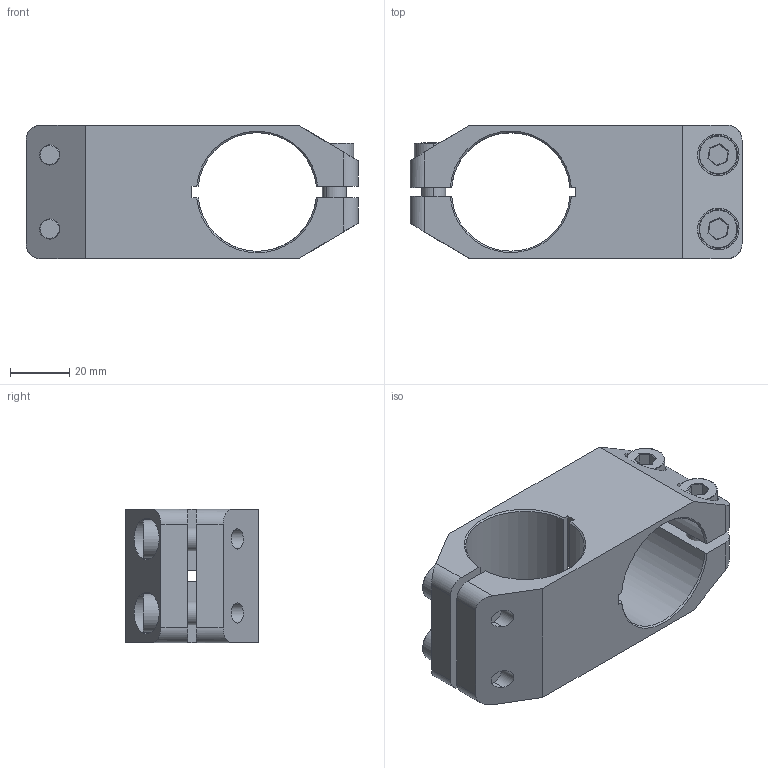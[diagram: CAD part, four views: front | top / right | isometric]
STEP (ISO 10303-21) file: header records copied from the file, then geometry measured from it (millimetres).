
FILE_DESCRIPTION (( 'STEP AP203' ), '1' );
FILE_NAME ('SMBT-4040T.STEP', '2024-03-19T02:57:23', ( '微软用户' ), ( '微软中国' ), 'SwSTEP 2.0', 'SolidWorks 2018', '' );
FILE_SCHEMA (( 'CONFIG_CONTROL_DESIGN' ));
Length unit declared in the file: millimetre
Products named in the file (3): SMBT-4040; PTC-M8L20; SMBT-4040T
Assembly tree (5 placements, depth 2):
  SMBT-4040T
    SMBT-4040
    PTC-M8L20  x4
Bounding box: 112 x 45 x 45 mm (x, y, z)
Volume: 86652.3 mm3; surface area: 36502 mm2
Topology: 5 solids, 5 shells, 179 faces, 424 edges, 265 vertices
Faces by surface type: plane 92, cylinder 53, cone 26, torus 8
Entity records: 3530 total; most frequent: CARTESIAN_POINT 660, ORIENTED_EDGE 524, DIRECTION 517, EDGE_CURVE 262, AXIS2_PLACEMENT_3D 186, VERTEX_POINT 169, LINE 145, VECTOR 145
